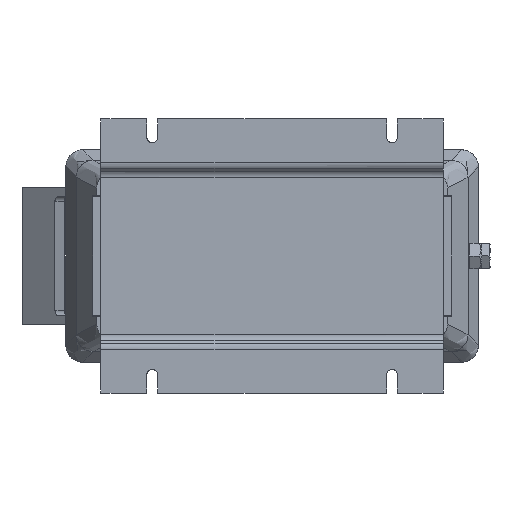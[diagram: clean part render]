
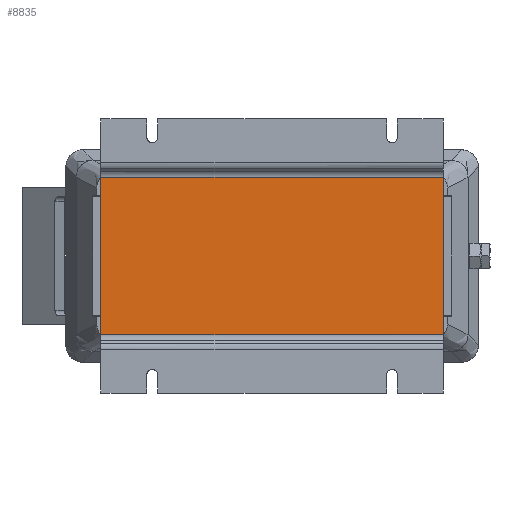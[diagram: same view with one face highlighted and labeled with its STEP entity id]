
A CAD part, front view. The second image highlights one B-rep face of the part: STEP entity #8835.
In plain terms, the highlighted planar face has unit normal (0, -1, 0).
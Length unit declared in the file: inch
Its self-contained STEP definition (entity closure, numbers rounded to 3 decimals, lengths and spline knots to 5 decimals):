
#2683 = CARTESIAN_POINT ( 'NONE',  ( -5., -0.11, 2.29455 ) ) ;
#2721 = CARTESIAN_POINT ( 'NONE',  ( 5., -0.11, 2.29455 ) ) ;
#2737 = DIRECTION ( 'NONE',  ( 1., 0., 0. ) ) ;
#2738 = VECTOR ( 'NONE', #2737, 39.37008 ) ;
#2739 = CARTESIAN_POINT ( 'NONE',  ( -5., -0.11, -2.29455 ) ) ;
#2740 = LINE ( 'NONE', #2739, #2738 ) ;
#2774 = CARTESIAN_POINT ( 'NONE',  ( -5., -0.11, -2.29455 ) ) ;
#2775 = DIRECTION ( 'NONE',  ( 0., 0., -1. ) ) ;
#2776 = VECTOR ( 'NONE', #2775, 39.37008 ) ;
#2777 = CARTESIAN_POINT ( 'NONE',  ( -5., -0.11, 0. ) ) ;
#2778 = LINE ( 'NONE', #2777, #2776 ) ;
#2837 = DIRECTION ( 'NONE',  ( 1., 0., 0. ) ) ;
#2838 = VECTOR ( 'NONE', #2837, 39.37008 ) ;
#2845 = CARTESIAN_POINT ( 'NONE',  ( -5., -0.11, 2.29455 ) ) ;
#2846 = LINE ( 'NONE', #2845, #2838 ) ;
#2887 = CARTESIAN_POINT ( 'NONE',  ( 5., -0.11, -2.29455 ) ) ;
#2888 = DIRECTION ( 'NONE',  ( 0., 0., 1. ) ) ;
#2889 = VECTOR ( 'NONE', #2888, 39.37008 ) ;
#2890 = CARTESIAN_POINT ( 'NONE',  ( 5., -0.11, 0. ) ) ;
#2891 = LINE ( 'NONE', #2890, #2889 ) ;
#2892 = DIRECTION ( 'NONE',  ( 0., 0., -1. ) ) ;
#2893 = DIRECTION ( 'NONE',  ( 0., -1., 0. ) ) ;
#2894 = CARTESIAN_POINT ( 'NONE',  ( -5., -0.11, 2.29455 ) ) ;
#2895 = AXIS2_PLACEMENT_3D ( 'NONE', #2894, #2893, #2892 ) ;
#2896 = PLANE ( 'NONE',  #2895 ) ;
#2897 = FACE_OUTER_BOUND ( 'NONE', #8836, .T. ) ;
#8717 = VERTEX_POINT ( 'NONE', #2683 ) ;
#8719 = VERTEX_POINT ( 'NONE', #2721 ) ;
#8758 = ORIENTED_EDGE ( 'NONE', *, *, #8759, .T. ) ;
#8759 = EDGE_CURVE ( 'NONE', #8778, #8839, #2740, .T. ) ;
#8775 = ORIENTED_EDGE ( 'NONE', *, *, #8798, .F. ) ;
#8776 = ORIENTED_EDGE ( 'NONE', *, *, #8777, .T. ) ;
#8777 = EDGE_CURVE ( 'NONE', #8717, #8778, #2778, .T. ) ;
#8778 = VERTEX_POINT ( 'NONE', #2774 ) ;
#8798 = EDGE_CURVE ( 'NONE', #8717, #8719, #2846, .T. ) ;
#8835 = ADVANCED_FACE ( 'NONE', ( #2897 ), #2896, .T. ) ;
#8836 = EDGE_LOOP ( 'NONE', ( #8837, #8775, #8776, #8758 ) ) ;
#8837 = ORIENTED_EDGE ( 'NONE', *, *, #8838, .T. ) ;
#8838 = EDGE_CURVE ( 'NONE', #8839, #8719, #2891, .T. ) ;
#8839 = VERTEX_POINT ( 'NONE', #2887 ) ;
